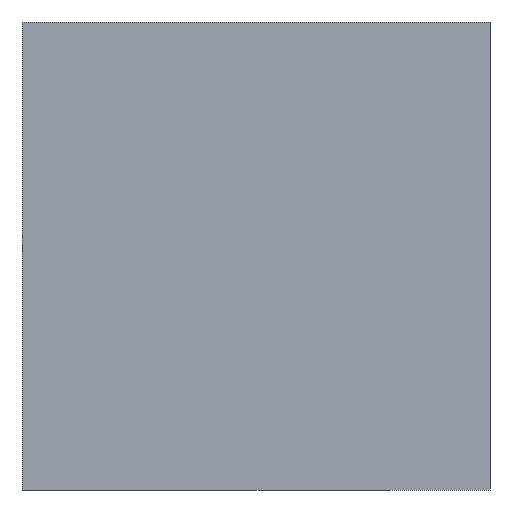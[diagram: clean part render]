
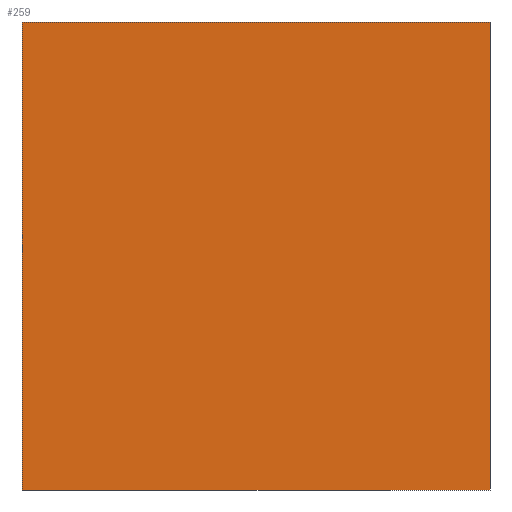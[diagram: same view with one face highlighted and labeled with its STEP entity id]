
A CAD part, left-side view. The second image highlights one B-rep face of the part: STEP entity #259.
In plain terms, the highlighted planar face has unit normal (-1, 0, 0).
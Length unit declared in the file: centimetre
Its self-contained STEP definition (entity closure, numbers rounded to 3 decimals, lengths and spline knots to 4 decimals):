
#3 = VECTOR ( 'NONE', #542, 100. ) ;
#22 = DIRECTION ( 'NONE',  ( 0., -1., 0. ) ) ;
#30 = CARTESIAN_POINT ( 'NONE',  ( 0., 0., 1000. ) ) ;
#69 = EDGE_CURVE ( 'NONE', #256, #234, #150, .T. ) ;
#91 = CARTESIAN_POINT ( 'NONE',  ( 0., 1000., 1000. ) ) ;
#93 = DIRECTION ( 'NONE',  ( 0., 0., -1. ) ) ;
#100 = PLANE ( 'NONE',  #384 ) ;
#108 = VERTEX_POINT ( 'NONE', #30 ) ;
#110 = VECTOR ( 'NONE', #458, 100. ) ;
#150 = LINE ( 'NONE', #366, #390 ) ;
#162 = CARTESIAN_POINT ( 'NONE',  ( 0., 1000., 1000. ) ) ;
#170 = CARTESIAN_POINT ( 'NONE',  ( 0., 1000., 1000. ) ) ;
#181 = EDGE_CURVE ( 'NONE', #108, #234, #423, .T. ) ;
#188 = ORIENTED_EDGE ( 'NONE', *, *, #181, .F. ) ;
#196 = VERTEX_POINT ( 'NONE', #546 ) ;
#211 = EDGE_CURVE ( 'NONE', #196, #256, #263, .T. ) ;
#234 = VERTEX_POINT ( 'NONE', #332 ) ;
#235 = VECTOR ( 'NONE', #533, 100. ) ;
#243 = LINE ( 'NONE', #162, #235 ) ;
#251 = CARTESIAN_POINT ( 'NONE',  ( 0., 0., 1000. ) ) ;
#256 = VERTEX_POINT ( 'NONE', #304 ) ;
#259 = ADVANCED_FACE ( 'NONE', ( #469 ), #100, .F. ) ;
#261 = ORIENTED_EDGE ( 'NONE', *, *, #417, .F. ) ;
#263 = LINE ( 'NONE', #170, #110 ) ;
#304 = CARTESIAN_POINT ( 'NONE',  ( 0., 1000., 0. ) ) ;
#332 = CARTESIAN_POINT ( 'NONE',  ( 0., 0., 0. ) ) ;
#366 = CARTESIAN_POINT ( 'NONE',  ( 0., 1000., 0. ) ) ;
#384 = AXIS2_PLACEMENT_3D ( 'NONE', #91, #472, #93 ) ;
#390 = VECTOR ( 'NONE', #22, 100. ) ;
#412 = ORIENTED_EDGE ( 'NONE', *, *, #69, .T. ) ;
#417 = EDGE_CURVE ( 'NONE', #196, #108, #243, .T. ) ;
#423 = LINE ( 'NONE', #251, #3 ) ;
#445 = ORIENTED_EDGE ( 'NONE', *, *, #211, .T. ) ;
#456 = EDGE_LOOP ( 'NONE', ( #412, #188, #261, #445 ) ) ;
#458 = DIRECTION ( 'NONE',  ( 0., 0., -1. ) ) ;
#469 = FACE_OUTER_BOUND ( 'NONE', #456, .T. ) ;
#472 = DIRECTION ( 'NONE',  ( 1., 0., 0. ) ) ;
#533 = DIRECTION ( 'NONE',  ( 0., -1., 0. ) ) ;
#542 = DIRECTION ( 'NONE',  ( 0., 0., -1. ) ) ;
#546 = CARTESIAN_POINT ( 'NONE',  ( 0., 1000., 1000. ) ) ;
